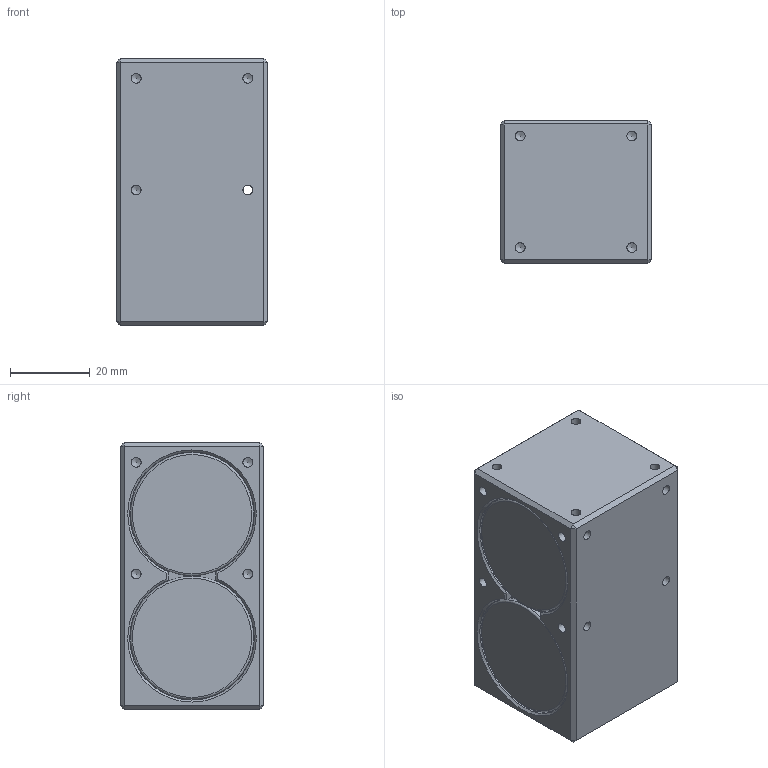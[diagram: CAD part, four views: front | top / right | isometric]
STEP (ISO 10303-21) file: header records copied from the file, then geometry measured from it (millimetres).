
FILE_DESCRIPTION(/* description */ (''),/* implementation_level */ '2;1');
FILE_NAME(/* name */ 'LA_8003_0181_A.stp',/* time_stamp */ '2010-07-20T15:10:59+01:00',/* author */ (''),/* organization */ (''),/* preprocessor_version */ 'ST-DEVELOPER v11',/* originating_system */ 'SIEMENS UGS NX 6.0',/* authorisation */ '');
FILE_SCHEMA (('CONFIG_CONTROL_DESIGN'));
Length unit declared in the file: millimetre
Products named in the file (1): LA-8003-0181_A
Bounding box: 38 x 36 x 67 mm (x, y, z)
Volume: 86606.2 mm3; surface area: 14523.1 mm2
Topology: 1 solids, 1 shells, 558 faces, 1518 edges, 995 vertices
Faces by surface type: plane 367, extrusion 114, cylinder 50, cone 25, torus 2
Full cylindrical faces by diameter (mm): 2.2 x1, 2.4 x1, 2.459 x30, 2.5 x4, 20 x2, 22 x2, 30 x1, 30.6 x1, 30.9 x2
Entity records: 17084 total; most frequent: CARTESIAN_POINT 3845, ORIENTED_EDGE 2786, DIRECTION 2282, EDGE_CURVE 1393, VECTOR 1156, LINE 1042, VERTEX_POINT 956, EDGE_LOOP 678
